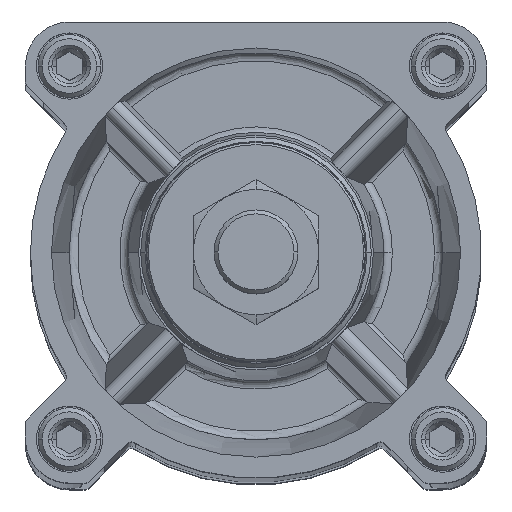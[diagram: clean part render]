
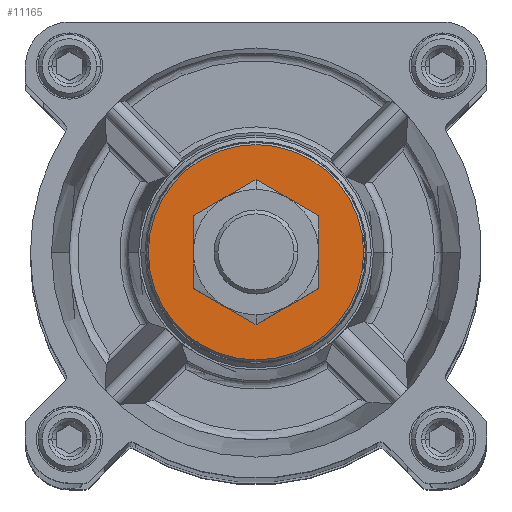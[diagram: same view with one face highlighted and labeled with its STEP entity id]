
A CAD part, top view. The second image highlights one B-rep face of the part: STEP entity #11165.
In plain terms, the highlighted planar face has unit normal (0, 0, 1).
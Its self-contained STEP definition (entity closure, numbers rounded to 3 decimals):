
#650 = DIRECTION ( 'NONE',  ( 0., 0., -1. ) ) ;
#1112 = DIRECTION ( 'NONE',  ( -1., 0., 0. ) ) ;
#1113 = DIRECTION ( 'NONE',  ( 0., 0., -1. ) ) ;
#1274 = CARTESIAN_POINT ( 'NONE',  ( 0., 0., 38. ) ) ;
#1637 = VERTEX_POINT ( 'NONE', #7450 ) ;
#2178 = FACE_OUTER_BOUND ( 'NONE', #13368, .T. ) ;
#2671 = CARTESIAN_POINT ( 'NONE',  ( 25.681, 0., 38. ) ) ;
#3156 = CIRCLE ( 'NONE', #8642, 12.5 ) ;
#3359 = CARTESIAN_POINT ( 'NONE',  ( -25.681, 0., 38. ) ) ;
#3516 = CARTESIAN_POINT ( 'NONE',  ( 0., 0., 38. ) ) ;
#3592 = CARTESIAN_POINT ( 'NONE',  ( 0., 0., 38. ) ) ;
#4507 = VERTEX_POINT ( 'NONE', #2671 ) ;
#4814 = ORIENTED_EDGE ( 'NONE', *, *, #14936, .T. ) ;
#5031 = DIRECTION ( 'NONE',  ( 0., 0., -1. ) ) ;
#5120 = AXIS2_PLACEMENT_3D ( 'NONE', #3516, #1113, #16877 ) ;
#5249 = CARTESIAN_POINT ( 'NONE',  ( 0., 0., 38. ) ) ;
#5997 = CARTESIAN_POINT ( 'NONE',  ( 12.5, 0., 38. ) ) ;
#6168 = AXIS2_PLACEMENT_3D ( 'NONE', #6846, #18510, #1112 ) ;
#6480 = DIRECTION ( 'NONE',  ( 0., -1., 0. ) ) ;
#6846 = CARTESIAN_POINT ( 'NONE',  ( 0., 0., 38. ) ) ;
#7111 = AXIS2_PLACEMENT_3D ( 'NONE', #3592, #5031, #9403 ) ;
#7421 = CIRCLE ( 'NONE', #7111, 12.5 ) ;
#7450 = CARTESIAN_POINT ( 'NONE',  ( -12.5, 0., 38. ) ) ;
#7650 = EDGE_CURVE ( 'NONE', #4507, #14151, #10907, .T. ) ;
#8092 = FACE_BOUND ( 'NONE', #10633, .T. ) ;
#8380 = PLANE ( 'NONE',  #8825 ) ;
#8456 = VERTEX_POINT ( 'NONE', #5997 ) ;
#8642 = AXIS2_PLACEMENT_3D ( 'NONE', #1274, #17145, #18584 ) ;
#8825 = AXIS2_PLACEMENT_3D ( 'NONE', #5249, #650, #6480 ) ;
#9159 = ORIENTED_EDGE ( 'NONE', *, *, #15074, .T. ) ;
#9403 = DIRECTION ( 'NONE',  ( -1., 0., 0. ) ) ;
#10633 = EDGE_LOOP ( 'NONE', ( #4814, #9159 ) ) ;
#10907 = CIRCLE ( 'NONE', #5120, 25.681 ) ;
#11165 = ADVANCED_FACE ( 'NONE', ( #2178, #8092 ), #8380, .F. ) ;
#11173 = ORIENTED_EDGE ( 'NONE', *, *, #7650, .F. ) ;
#13368 = EDGE_LOOP ( 'NONE', ( #16023, #11173 ) ) ;
#13474 = CIRCLE ( 'NONE', #6168, 25.681 ) ;
#14084 = EDGE_CURVE ( 'NONE', #14151, #4507, #13474, .T. ) ;
#14151 = VERTEX_POINT ( 'NONE', #3359 ) ;
#14936 = EDGE_CURVE ( 'NONE', #1637, #8456, #7421, .T. ) ;
#15074 = EDGE_CURVE ( 'NONE', #8456, #1637, #3156, .T. ) ;
#16023 = ORIENTED_EDGE ( 'NONE', *, *, #14084, .F. ) ;
#16877 = DIRECTION ( 'NONE',  ( -1., 0., 0. ) ) ;
#17145 = DIRECTION ( 'NONE',  ( 0., 0., -1. ) ) ;
#18510 = DIRECTION ( 'NONE',  ( 0., 0., -1. ) ) ;
#18584 = DIRECTION ( 'NONE',  ( -1., 0., 0. ) ) ;
